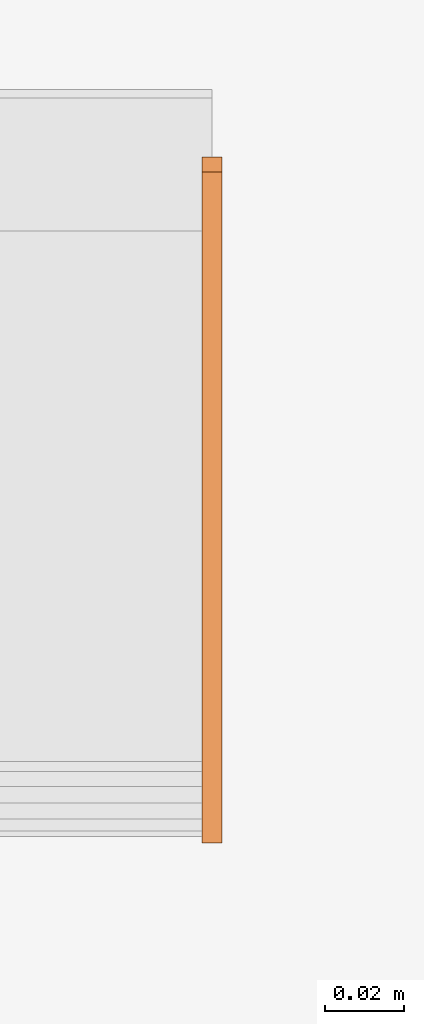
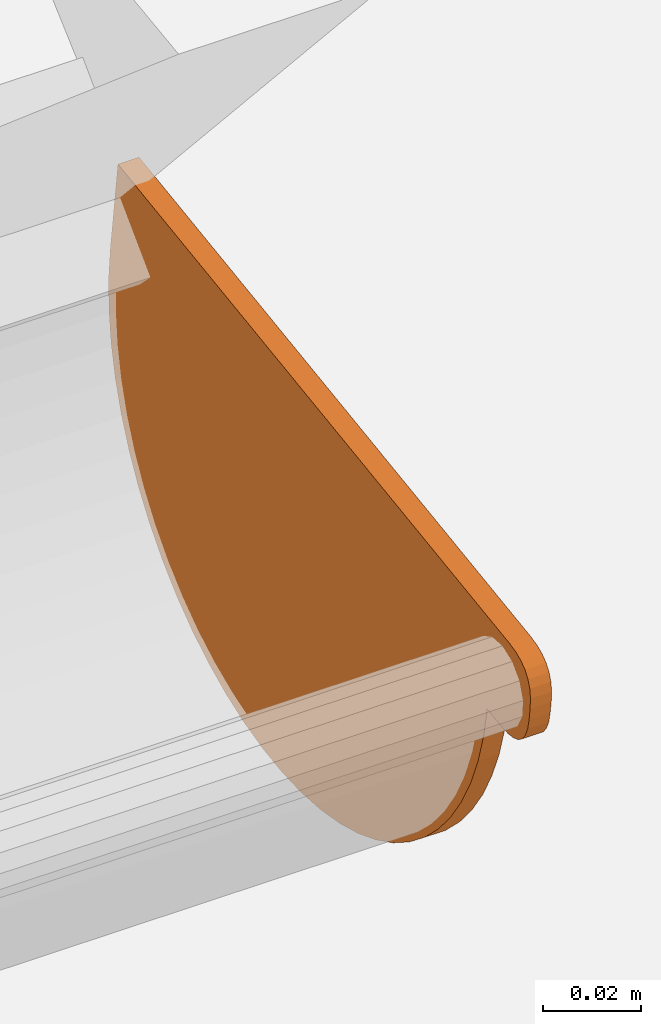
# One storey, part 26 of 43: 1 proxy.
"""IFC2X3 building model written with IfcOpenShell, lengths in millimetres."""

from ifc_helpers import new_model, si_unit, frame, origin_with_axes, place, context, project, spatial, faceted_brep, element, save


model = new_model("IFC2X3")

# Units and contexts
model_context = context("Model", 3, world=origin_with_axes())
ifc_project = project(units=[si_unit("LENGTHUNIT", "METRE", prefix="MILLI")], contexts=[model_context])

# Site, building, storey
site_placement = place(None, origin_with_axes())
site = spatial("IfcSite", under=ifc_project, at=site_placement, Name="Site", CompositionType="ELEMENT")
building_placement = place(site_placement, origin_with_axes())
building = spatial("IfcBuilding", under=site, at=building_placement, Name="?", CompositionType="ELEMENT")
storey_placement = place(building_placement, frame((0.0, 0.0, 5938.0), z_axis=(0.0, 0.0, 1.0), x_axis=(1.0, 0.0, 0.0)))
storey = spatial("IfcBuildingStorey", under=building, at=storey_placement, Name="Dachgeschoß", CompositionType="ELEMENT", Elevation=5938.0)

# Proxy
proxy_placement = place(None, origin_with_axes())
element("IfcBuildingElementProxy", 1, at=proxy_placement, inside=storey, Name="Dach04_RoofGutter#027", ObjectType="gutter", CompositionType="ELEMENT", context=model_context, shape_type="Brep", body=[
    faceted_brep([(5052.5, -7071.2509765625, 6644.939453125), (5047.5, -7071.2509765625, 6644.939453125), (5047.5, -7069.75647654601, 6637.18085322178), (5052.5, -7069.75647654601, 6637.18085322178), (5052.5, -7069.75634765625, 6637.18115234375), (5047.5, -7069.75634765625, 6637.18115234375), (5047.5, -7067.48454766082, 6629.61345255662), (5052.5, -7067.48454766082, 6629.61345255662), (5052.5, -7067.484375, 6629.61328125), (5047.5, -7067.484375, 6629.61328125), (5047.5, -7064.45867502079, 6622.31438108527), (5052.5, -7064.45867502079, 6622.31438108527), (5052.5, -7064.458984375, 6622.314453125), (5047.5, -7064.458984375, 6622.314453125), (5047.5, -7060.71028437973, 6615.3590531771), (5052.5, -7060.71028437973, 6615.3590531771), (5052.5, -7060.7099609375, 6615.35888671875), (5047.5, -7060.7099609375, 6615.35888671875), (5047.5, -7056.27686074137, 6608.8183866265), (5052.5, -7056.27686074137, 6608.8183866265), (5052.5, -7056.27734375, 6608.818359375), (5047.5, -7056.27734375, 6608.818359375), (5047.5, -7051.20534357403, 6602.75985944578), (5052.5, -7051.20534357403, 6602.75985944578), (5052.5, -7051.205078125, 6602.76025390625), (5047.5, -7051.205078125, 6602.76025390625), (5047.5, -7045.54617810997, 6597.24605388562), (5052.5, -7045.54617810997, 6597.24605388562), (5052.5, -7045.54638671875, 6597.24609375), (5047.5, -7045.54638671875, 6597.24609375), (5047.5, -7039.35858673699, 6592.33269353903), (5052.5, -7039.35858673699, 6592.33269353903), (5052.5, -7039.3583984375, 6592.33251953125), (5047.5, -7039.3583984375, 6592.33251953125), (5047.5, -7032.70539846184, 6588.07021961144), (5052.5, -7032.70539846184, 6588.07021961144), (5052.5, -7032.70556640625, 6588.0703125), (5047.5, -7032.70556640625, 6588.0703125), (5047.5, -7025.65536663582, 6584.50311247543), (5052.5, -7025.65536663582, 6584.50311247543), (5052.5, -7025.6552734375, 6584.5029296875), (5047.5, -7025.6552734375, 6584.5029296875), (5047.5, -7018.28037339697, 6581.66722980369), (5052.5, -7018.28037339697, 6581.66722980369), (5052.5, -7018.2802734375, 6581.66748046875), (5047.5, -7018.2802734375, 6581.66748046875), (5047.5, -7010.65637361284, 6579.59238050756), (5052.5, -7010.65637361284, 6579.59238050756), (5052.5, -7010.65625, 6579.59228515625), (5047.5, -7010.65625, 6579.59228515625), (5047.5, -7002.86154998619, 6578.29918514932), (5052.5, -7002.86154998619, 6578.29918514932), (5052.5, -7002.86181640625, 6578.29931640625), (5047.5, -7002.86181640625, 6578.29931640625), (5047.5, -6994.97621626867, 6577.80141638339), (5052.5, -6994.97621626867, 6577.80141638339), (5052.5, -6994.97607421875, 6577.80126953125), (5047.5, -6994.97607421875, 6577.80126953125), (5047.5, -6987.08057429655, 6578.10366952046), (5052.5, -6987.08057429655, 6578.10366952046), (5052.5, -6987.08056640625, 6578.103515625), (5047.5, -6987.08056640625, 6578.103515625), (5047.5, -6979.2561663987, 6579.20321559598), (5052.5, -6979.2561663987, 6579.20321559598), (5052.5, -6979.25634765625, 6579.203125), (5047.5, -6979.25634765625, 6579.203125), (5047.5, -6971.58334766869, 6581.08862497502), (5052.5, -6971.58334766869, 6581.08862497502), (5052.5, -6971.5830078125, 6581.0888671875), (5047.5, -6971.5830078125, 6581.0888671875), (5047.5, -6964.14020801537, 6583.74106715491), (5052.5, -6964.14020801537, 6583.74106715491), (5052.5, -6964.140625, 6583.7412109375), (5047.5, -6964.140625, 6583.7412109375), (5047.5, -6957.00422499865, 6587.13281096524), (5052.5, -6957.00422499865, 6587.13281096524), (5052.5, -6957.00390625, 6587.1328125), (5047.5, -6957.00390625, 6587.1328125), (5047.5, -6950.24730613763, 6591.22891240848), (5052.5, -6950.24730613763, 6591.22891240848), (5052.5, -6950.24755859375, 6591.228515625), (5047.5, -6950.24755859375, 6591.228515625), (5047.5, -6943.94005870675, 6595.98711554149), (5052.5, -6943.94005870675, 6595.98711554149), (5052.5, -6943.93994140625, 6595.9873046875), (5047.5, -6943.93994140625, 6595.9873046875), (5047.5, -6938.14614135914, 6601.35970489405), (5052.5, -6938.14614135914, 6601.35970489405), (5052.5, -6938.14599609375, 6601.35986328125), (5047.5, -6938.14599609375, 6601.35986328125), (5047.5, -6932.92549597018, 6607.29086327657), (5052.5, -6932.92549597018, 6607.29086327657), (5052.5, -6932.92578125, 6607.29052734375), (5047.5, -6932.92578125, 6607.29052734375), (5047.5, -6928.33198134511, 6613.71912746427), (5052.5, -6928.33198134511, 6613.71912746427), (5052.5, -6928.33203125, 6613.71923828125), (5047.5, -6928.33203125, 6613.71923828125), (5047.5, -6924.41233128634, 6620.57973807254), (5052.5, -6924.41233128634, 6620.57973807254), (5052.5, -6924.412109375, 6620.57958984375), (5047.5, -6924.412109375, 6620.57958984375), (5047.5, -6921.20650946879, 6627.80128969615), (5052.5, -6921.20650946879, 6627.80128969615), (5052.5, -6921.20654296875, 6627.80126953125), (5047.5, -6921.20654296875, 6627.80126953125), (5047.5, -6918.74794288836, 6635.31036944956), (5052.5, -6918.74794288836, 6635.31036944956), (5052.5, -6918.748046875, 6635.310546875), (5047.5, -6918.748046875, 6635.310546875), (5047.5, -6917.06184691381, 6643.02974702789), (5052.5, -6917.06184691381, 6643.02974702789), (5052.5, -6917.0615234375, 6643.02978515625), (5047.5, -6917.0615234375, 6643.02978515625), (5047.5, -6916.16482343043, 6650.88008538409), (5052.5, -6916.16482343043, 6650.88008538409), (5052.5, -6916.1650390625, 6650.8798828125), (5047.5, -6916.1650390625, 6650.8798828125), (5047.5, -6916.06723906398, 6658.78048294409), (5052.5, -6916.06723906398, 6658.78048294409), (5052.5, -6916.0673828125, 6658.78076171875), (5047.5, -6916.0673828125, 6658.78076171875), (5047.5, -6916.76928279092, 6666.65086183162), (5052.5, -6916.76928279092, 6666.65086183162), (5052.5, -6916.76904296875, 6666.65087890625), (5047.5, -6916.76904296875, 6666.65087890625), (5047.5, -6994.00994139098, 6655.79527844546), (5052.5, -6994.00994139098, 6655.79527844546), (5052.5, -6994.009765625, 6655.79541015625), (5047.5, -6994.009765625, 6655.79541015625), (5047.5, -7071.25066421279, 6644.93991042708), (5052.5, -7071.25066421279, 6644.93991042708), (5047.5, -6917.0615234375, 6643.02978515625), (5047.5, -6994.0098234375, 6655.79518515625), (5047.5, -6916.7689234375, 6666.65078515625), (5047.5, -6916.0670234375, 6658.78068515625), (5047.5, -6917.0615234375, 6643.02978515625), (5047.5, -6916.0670234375, 6658.78068515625), (5047.5, -6916.1648234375, 6650.88008515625), (5047.5, -6928.33203125, 6613.71923828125), (5047.5, -6917.06193125, 6643.02973828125), (5047.5, -6918.74813125, 6635.31053828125), (5047.5, -6921.20673125, 6627.80143828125), (5047.5, -6928.33203125, 6613.71923828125), (5047.5, -6921.20673125, 6627.80143828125), (5047.5, -6924.41233125, 6620.57973828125), (5047.5, -6979.25634765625, 6579.203125), (5047.5, -6994.01014765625, 6655.795025), (5047.5, -6917.06184765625, 6643.029625), (5047.5, -6928.33194765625, 6613.719125), (5047.5, -6950.24755859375, 6591.228515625), (5047.5, -6928.33195859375, 6613.719115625), (5047.5, -6932.92575859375, 6607.290515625), (5047.5, -6938.14625859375, 6601.359515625), (5047.5, -6950.24755859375, 6591.228515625), (5047.5, -6938.14625859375, 6601.359515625), (5047.5, -6943.94005859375, 6595.987115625), (5047.5, -6979.25634765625, 6579.203125), (5047.5, -6950.24754765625, 6591.228525), (5047.5, -6957.00414765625, 6587.132425), (5047.5, -6964.14054765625, 6583.740825), (5047.5, -6979.25634765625, 6579.203125), (5047.5, -6964.14054765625, 6583.740825), (5047.5, -6971.58334765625, 6581.088625), (5047.5, -6979.25634765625, 6579.203125), (5047.5, -6928.33194765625, 6613.719125), (5047.5, -6950.24754765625, 6591.228525), (5047.5, -7010.65625, 6579.59228515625), (5047.5, -6979.25605, 6579.20338515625), (5047.5, -6987.08045, 6578.10368515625), (5047.5, -6994.97595, 6577.80128515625), (5047.5, -7010.65625, 6579.59228515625), (5047.5, -6994.97595, 6577.80128515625), (5047.5, -7002.86155, 6578.29918515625), (5047.5, -7039.3583984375, 6592.33251953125), (5047.5, -7010.6563984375, 6579.59221953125), (5047.5, -7018.2802984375, 6581.66731953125), (5047.5, -7025.6551984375, 6584.50301953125), (5047.5, -7039.3583984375, 6592.33251953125), (5047.5, -7025.6551984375, 6584.50301953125), (5047.5, -7032.7053984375, 6588.07021953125), (5047.5, -6994.009765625, 6655.79541015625), (5047.5, -6979.255965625, 6579.20351015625), (5047.5, -7010.656165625, 6579.59241015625), (5047.5, -7039.358165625, 6592.33271015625), (5047.5, -7060.7099609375, 6615.35888671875), (5047.5, -7039.3581609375, 6592.33228671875), (5047.5, -7045.5459609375, 6597.24568671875), (5047.5, -7051.2048609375, 6602.75988671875), (5047.5, -7060.7099609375, 6615.35888671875), (5047.5, -7051.2048609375, 6602.75988671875), (5047.5, -7056.2768609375, 6608.81838671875), (5047.5, -7067.484375, 6629.61328125), (5047.5, -6994.009775, 6655.79508125), (5047.5, -7039.358175, 6592.33238125), (5047.5, -7060.709975, 6615.35898125), (5047.5, -7067.484375, 6629.61328125), (5047.5, -7060.709975, 6615.35898125), (5047.5, -7064.458675, 6622.31438125), (5047.5, -7071.2509765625, 6644.939453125), (5047.5, -6994.0100765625, 6655.794953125), (5047.5, -7067.4846765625, 6629.613153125), (5047.5, -7069.7564765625, 6637.180853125), (5052.5, -7056.27734375, 6608.818359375), (5052.5, -7069.75664375, 6637.180859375), (5052.5, -7067.48484375, 6629.613159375), (5052.5, -7064.45914375, 6622.314259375), (5052.5, -7056.27734375, 6608.818359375), (5052.5, -7064.45914375, 6622.314259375), (5052.5, -7060.71044375, 6615.358859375), (5052.5, -7032.70556640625, 6588.0703125), (5052.5, -7056.27726640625, 6608.8187125), (5052.5, -7051.20526640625, 6602.7602125), (5052.5, -7045.54636640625, 6597.2460125), (5052.5, -7032.70556640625, 6588.0703125), (5052.5, -7045.54636640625, 6597.2460125), (5052.5, -7039.35856640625, 6592.3326125), (5052.5, -6971.5830078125, 6581.0888671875), (5052.5, -7069.7562078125, 6637.1811671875), (5052.5, -7056.2769078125, 6608.8186671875), (5052.5, -7032.7052078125, 6588.0702671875), (5052.5, -7002.86181640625, 6578.29931640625), (5052.5, -7032.70551640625, 6588.07041640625), (5052.5, -7025.65531640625, 6584.50321640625), (5052.5, -7018.28041640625, 6581.66751640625), (5052.5, -7002.86181640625, 6578.29931640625), (5052.5, -7018.28041640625, 6581.66751640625), (5052.5, -7010.65651640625, 6579.59241640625), (5052.5, -6971.5830078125, 6581.0888671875), (5052.5, -7002.8615078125, 6578.2991671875), (5052.5, -6994.9759078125, 6577.8012671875), (5052.5, -6987.0804078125, 6578.1036671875), (5052.5, -6971.5830078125, 6581.0888671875), (5052.5, -6987.0804078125, 6578.1036671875), (5052.5, -6979.2560078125, 6579.2033671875), (5052.5, -6971.5830078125, 6581.0888671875), (5052.5, -7032.7052078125, 6588.0702671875), (5052.5, -7002.8615078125, 6578.2991671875), (5052.5, -6943.93994140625, 6595.9873046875), (5052.5, -6971.58324140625, 6581.0888046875), (5052.5, -6964.14044140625, 6583.7410046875), (5052.5, -6957.00404140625, 6587.1326046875), (5052.5, -6943.93994140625, 6595.9873046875), (5052.5, -6957.00404140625, 6587.1326046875), (5052.5, -6950.24744140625, 6591.2287046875), (5052.5, -6924.412109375, 6620.57958984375), (5052.5, -6943.939909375, 6595.98708984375), (5052.5, -6938.146109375, 6601.35948984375), (5052.5, -6932.925609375, 6607.29048984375), (5052.5, -6924.412109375, 6620.57958984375), (5052.5, -6932.925609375, 6607.29048984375), (5052.5, -6928.331809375, 6613.71908984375), (5052.5, -7069.75634765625, 6637.18115234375), (5052.5, -6971.58314765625, 6581.08885234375), (5052.5, -6943.93984765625, 6595.98735234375), (5052.5, -6924.41204765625, 6620.57985234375), (5052.5, -6916.1650390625, 6650.8798828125), (5052.5, -6924.4121390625, 6620.5795828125), (5052.5, -6921.2065390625, 6627.8012828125), (5052.5, -6918.7479390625, 6635.3103828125), (5052.5, -6916.1650390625, 6650.8798828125), (5052.5, -6918.7479390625, 6635.3103828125), (5052.5, -6917.0617390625, 6643.0295828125), (5052.5, -6916.76904296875, 6666.65087890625), (5052.5, -7069.75634296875, 6637.18117890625), (5052.5, -6924.41204296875, 6620.57987890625), (5052.5, -6916.16494296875, 6650.88017890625), (5052.5, -6916.76904296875, 6666.65087890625), (5052.5, -6916.16494296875, 6650.88017890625), (5052.5, -6916.06714296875, 6658.78077890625), (5052.5, -7071.2509765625, 6644.939453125), (5052.5, -7069.7564765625, 6637.180853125), (5052.5, -6916.7691765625, 6666.650553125), (5052.5, -6994.0100765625, 6655.794953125), (5047.5, -6916.76904296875, 6666.65087890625), (5052.5, -6916.76904296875, 6666.65087890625), (5052.5, -7077.09054740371, 6644.10797940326), (5047.5, -7077.09054740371, 6644.10797940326), (5052.5, -7080.29150390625, 6666.88427734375), (5052.5, -6919.86710379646, 6689.4304768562), (5047.5, -6919.86710379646, 6689.4304768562), (5047.5, -7080.29150390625, 6666.88427734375), (5052.5, -6919.8671875, 6689.43017578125), (5052.5, -6916.76908754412, 6666.65067633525), (5047.5, -6916.76908754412, 6666.65067633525), (5047.5, -6919.8671875, 6689.43017578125), (5047.5, -7082.05419921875, 6644.234375), (5047.5, -6916.76929921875, 6666.650575), (5047.5, -7077.09079921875, 6644.107675), (5047.5, -7079.74619921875, 6643.940575), (5047.5, -7085.6279296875, 6646.205078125), (5047.5, -6916.7690296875, 6666.650778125), (5047.5, -7082.0539296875, 6644.234578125), (5047.5, -7084.0146296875, 6644.989378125), (5047.5, -7087.8125, 6650.01953125), (5047.5, -6916.769, 6666.65093125), (5047.5, -7085.6279, 6646.20523125), (5047.5, -7086.8939, 6647.88193125), (5047.5, -7080.29150390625, 6666.88427734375), (5047.5, -6916.76900390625, 6666.65097734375), (5047.5, -7087.81250390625, 6650.01957734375), (5047.5, -7088.38380390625, 6652.61817734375), (5047.5, -7088.6748046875, 6660.55419921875), (5047.5, -7088.3837046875, 6652.61799921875), (5047.5, -7088.8015046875, 6655.59079921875), (5047.5, -7088.9686046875, 6658.24619921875), (5047.5, -7086.70458984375, 6664.1279296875), (5047.5, -7088.38398984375, 6652.6177296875), (5047.5, -7088.67508984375, 6660.5539296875), (5047.5, -7087.92028984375, 6662.5146296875), (5047.5, -7082.89013671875, 6666.31298828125), (5047.5, -7088.38383671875, 6652.61818828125), (5047.5, -7086.70443671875, 6664.12838828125), (5047.5, -7085.02773671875, 6665.39438828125), (5047.5, -7080.29150390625, 6666.88427734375), (5047.5, -7088.38380390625, 6652.61817734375), (5047.5, -7082.89010390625, 6666.31297734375), (5047.5, -6919.8671875, 6689.43017578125), (5047.5, -6916.7690875, 6666.65067578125), (5047.5, -7080.2915875, 6666.88397578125), (5047.5, -7088.8017578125, 6655.5908203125), (5047.5, -7088.38395782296, 6652.61802033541), (5052.5, -7088.38395782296, 6652.61802033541), (5052.5, -7088.8017578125, 6655.5908203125), (5052.5, -7088.8017578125, 6655.5908203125), (5052.5, -7077.0906578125, 6644.1079203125), (5052.5, -6916.7691578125, 6666.6508203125), (5052.5, -6919.8672578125, 6689.4303203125), (5052.5, -7085.02783203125, 6665.39404296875), (5052.5, -6919.86723203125, 6689.43014296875), (5052.5, -7080.29163203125, 6666.88394296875), (5052.5, -7082.89023203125, 6666.31264296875), (5052.5, -7087.92041015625, 6662.5146484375), (5052.5, -6919.86741015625, 6689.4300484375), (5052.5, -7085.02801015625, 6665.3939484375), (5052.5, -7086.70471015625, 6664.1279484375), (5052.5, -7088.96875, 6658.24609375), (5052.5, -6919.86715, 6689.43019375), (5052.5, -7087.92015, 6662.51479375), (5052.5, -7088.67495, 6660.55409375), (5052.5, -7088.8017578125, 6655.5908203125), (5052.5, -6919.8672578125, 6689.4303203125), (5052.5, -7088.9688578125, 6658.2462203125), (5052.5, -7082.05419921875, 6644.234375), (5052.5, -7079.74619921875, 6643.940575), (5052.5, -7077.09079921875, 6644.107675), (5052.5, -7088.80189921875, 6655.590575), (5052.5, -7085.6279296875, 6646.205078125), (5052.5, -7084.0146296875, 6644.989378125), (5052.5, -7082.0539296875, 6644.234578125), (5052.5, -7088.8016296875, 6655.590778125), (5052.5, -7087.8125, 6650.01953125), (5052.5, -7086.8939, 6647.88193125), (5052.5, -7085.6279, 6646.20523125), (5052.5, -7088.8016, 6655.59093125), (5052.5, -7088.8017578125, 6655.5908203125), (5052.5, -7088.3839578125, 6652.6180203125), (5052.5, -7087.8126578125, 6650.0194203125), (5052.5, -7079.74609375, 6643.94091796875), (5047.5, -7079.74609375, 6643.94091796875), (5047.5, -7077.09069368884, 6644.10801795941), (5052.5, -7077.09069368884, 6644.10801795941), (5047.5, -7082.89013671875, 6666.31298828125), (5052.5, -7082.89013671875, 6666.31298828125), (5052.5, -7080.291536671, 6666.88428827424), (5047.5, -7080.291536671, 6666.88428827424), (5052.5, -7082.05419921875, 6644.234375), (5047.5, -7082.05419921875, 6644.234375), (5047.5, -7079.74619921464, 6643.94057498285), (5052.5, -7079.74619921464, 6643.94057498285), (5052.5, -7084.0146484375, 6644.9892578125), (5047.5, -7084.0146484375, 6644.9892578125), (5047.5, -7082.05394848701, 6644.23445784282), (5052.5, -7082.05394848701, 6644.23445784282), (5052.5, -7085.6279296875, 6646.205078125), (5047.5, -7085.6279296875, 6646.205078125), (5047.5, -7084.01462973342, 6644.98937815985), (5052.5, -7084.01462973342, 6644.98937815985), (5052.5, -7086.89404296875, 6647.8818359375), (5047.5, -7086.89404296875, 6647.8818359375), (5047.5, -7085.62804300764, 6646.20513594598), (5052.5, -7085.62804300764, 6646.20513594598), (5052.5, -7087.8125, 6650.01953125), (5047.5, -7087.8125, 6650.01953125), (5047.5, -7086.89390000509, 6647.88193130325), (5052.5, -7086.89390000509, 6647.88193130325), (5052.5, -7088.3837890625, 6652.6181640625), (5047.5, -7088.3837890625, 6652.6181640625), (5047.5, -7087.81248906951, 6650.01956401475), (5052.5, -7087.81248906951, 6650.01956401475), (5047.5, -7085.02783203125, 6665.39404296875), (5052.5, -7085.02783203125, 6665.39404296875), (5052.5, -7082.8902320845, 6666.31264296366), (5047.5, -7082.8902320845, 6666.31264296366), (5047.5, -7086.70458984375, 6664.1279296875), (5052.5, -7086.70458984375, 6664.1279296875), (5052.5, -7085.02788985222, 6665.39392964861), (5047.5, -7085.02788985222, 6665.39392964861), (5047.5, -7087.92041015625, 6662.5146484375), (5052.5, -7087.92041015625, 6662.5146484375), (5052.5, -7086.7047101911, 6664.12794839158), (5047.5, -7086.7047101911, 6664.12794839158), (5047.5, -7088.6748046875, 6660.55419921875), (5052.5, -7088.6748046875, 6660.55419921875), (5052.5, -7087.92000471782, 6662.51489916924), (5047.5, -7087.92000471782, 6662.51489916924), (5047.5, -7088.96875, 6658.24609375), (5052.5, -7088.96875, 6658.24609375), (5052.5, -7088.67494998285, 6660.55409375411), (5047.5, -7088.67494998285, 6660.55409375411), (5047.5, -7088.8017578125, 6655.5908203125), (5052.5, -7088.8017578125, 6655.5908203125), (5052.5, -7088.96885780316, 6658.24622037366), (5047.5, -7088.96885780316, 6658.24622037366)], [[[0, 1, 2, 3]], [[4, 5, 6, 7]], [[8, 9, 10, 11]], [[12, 13, 14, 15]], [[16, 17, 18, 19]], [[20, 21, 22, 23]], [[24, 25, 26, 27]], [[28, 29, 30, 31]], [[32, 33, 34, 35]], [[36, 37, 38, 39]], [[40, 41, 42, 43]], [[44, 45, 46, 47]], [[48, 49, 50, 51]], [[52, 53, 54, 55]], [[56, 57, 58, 59]], [[60, 61, 62, 63]], [[64, 65, 66, 67]], [[68, 69, 70, 71]], [[72, 73, 74, 75]], [[76, 77, 78, 79]], [[80, 81, 82, 83]], [[84, 85, 86, 87]], [[88, 89, 90, 91]], [[92, 93, 94, 95]], [[96, 97, 98, 99]], [[100, 101, 102, 103]], [[104, 105, 106, 107]], [[108, 109, 110, 111]], [[112, 113, 114, 115]], [[116, 117, 118, 119]], [[120, 121, 122, 123]], [[124, 125, 126, 127]], [[128, 129, 130, 131]], [[132, 133, 134, 135]], [[136, 137, 138]], [[139, 140, 141, 142]], [[143, 144, 145]], [[146, 147, 148, 149]], [[150, 151, 152, 153]], [[154, 155, 156]], [[157, 158, 159, 160]], [[161, 162, 163]], [[164, 165, 166]], [[167, 168, 169, 170]], [[171, 172, 173]], [[174, 175, 176, 177]], [[178, 179, 180]], [[181, 182, 183, 184]], [[185, 186, 187, 188]], [[189, 190, 191]], [[192, 193, 194, 195]], [[196, 197, 198]], [[199, 200, 201, 202]], [[203, 204, 205, 206]], [[207, 208, 209]], [[210, 211, 212, 213]], [[214, 215, 216]], [[217, 218, 219, 220]], [[221, 222, 223, 224]], [[225, 226, 227]], [[228, 229, 230, 231]], [[232, 233, 234]], [[235, 236, 237]], [[238, 239, 240, 241]], [[242, 243, 244]], [[245, 246, 247, 248]], [[249, 250, 251]], [[252, 253, 254, 255]], [[256, 257, 258, 259]], [[260, 261, 262]], [[263, 264, 265, 266]], [[267, 268, 269]], [[270, 271, 272, 273]], [[274, 275, 276, 277]], [[278, 279, 280, 281]], [[282, 283, 284, 285]], [[286, 287, 288, 289]], [[290, 291, 292, 293]], [[294, 295, 296, 297]], [[298, 299, 300, 301]], [[302, 303, 304, 305]], [[306, 307, 308, 309]], [[310, 311, 312, 313]], [[314, 315, 316]], [[317, 318, 319]], [[320, 321, 322, 323]], [[324, 325, 326, 327]], [[328, 329, 330, 331]], [[332, 333, 334, 335]], [[336, 337, 338, 339]], [[340, 341, 342]], [[343, 344, 345, 346]], [[347, 348, 349, 350]], [[351, 352, 353, 354]], [[355, 356, 357]], [[358, 359, 360, 361]], [[362, 363, 364, 365]], [[366, 367, 368, 369]], [[370, 371, 372, 373]], [[374, 375, 376, 377]], [[378, 379, 380, 381]], [[382, 383, 384, 385]], [[386, 387, 388, 389]], [[390, 391, 392, 393]], [[394, 395, 396, 397]], [[398, 399, 400, 401]], [[402, 403, 404, 405]], [[406, 407, 408, 409]], [[410, 411, 412, 413]]]),
])

save(model, "model.ifc")
